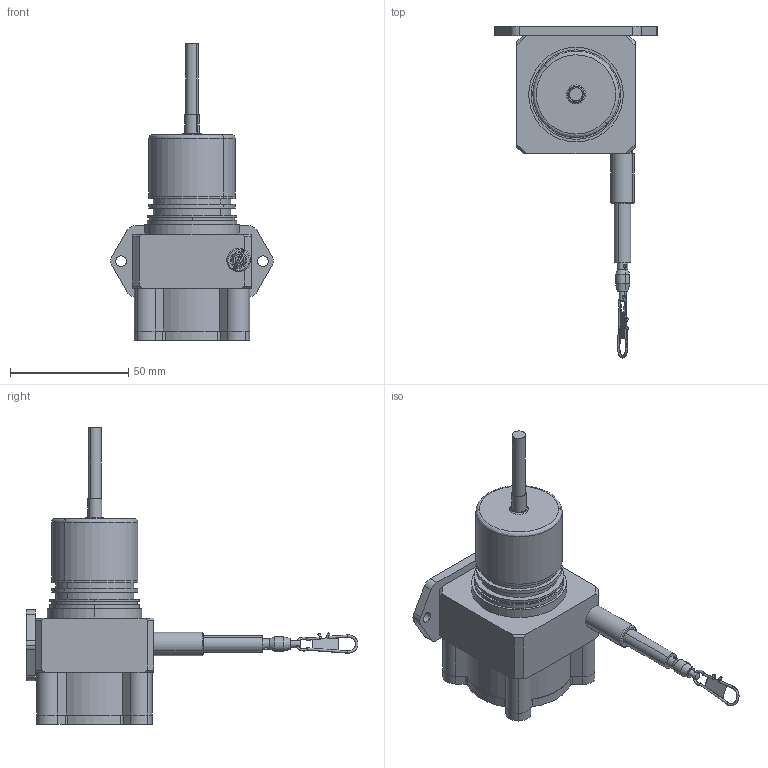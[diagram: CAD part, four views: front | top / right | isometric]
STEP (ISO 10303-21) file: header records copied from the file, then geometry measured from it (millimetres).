
FILE_DESCRIPTION (( 'STEP AP214' ), '1' );
FILE_NAME ('D8.6A1.0125.3641.XXXX.STEP', '2009-04-01T08:21:37', ( 'admin' ), ( 'Fritz Kübler GmbH' ), 'SwSTEP 2.0', 'SolidWorks 2008', '' );
FILE_SCHEMA (( 'AUTOMOTIVE_DESIGN' ));
Length unit declared in the file: millimetre
Products named in the file (1): D8.6A1.0125.3641.XXXX
Bounding box: 68.76 x 140.32 x 125.53 mm (x, y, z)
Volume: 86469.5 mm3; surface area: 49173.7 mm2
Topology: 11 solids, 11 shells, 373 faces, 927 edges, 574 vertices
Faces by surface type: cylinder 202, plane 110, cone 43, bspline 18
Entity records: 16895 total; most frequent: CARTESIAN_POINT 3699, DIRECTION 1967, ORIENTED_EDGE 1786, EDGE_CURVE 893, AXIS2_PLACEMENT_3D 784, VERTEX_POINT 574, EDGE_LOOP 459, CIRCLE 428
